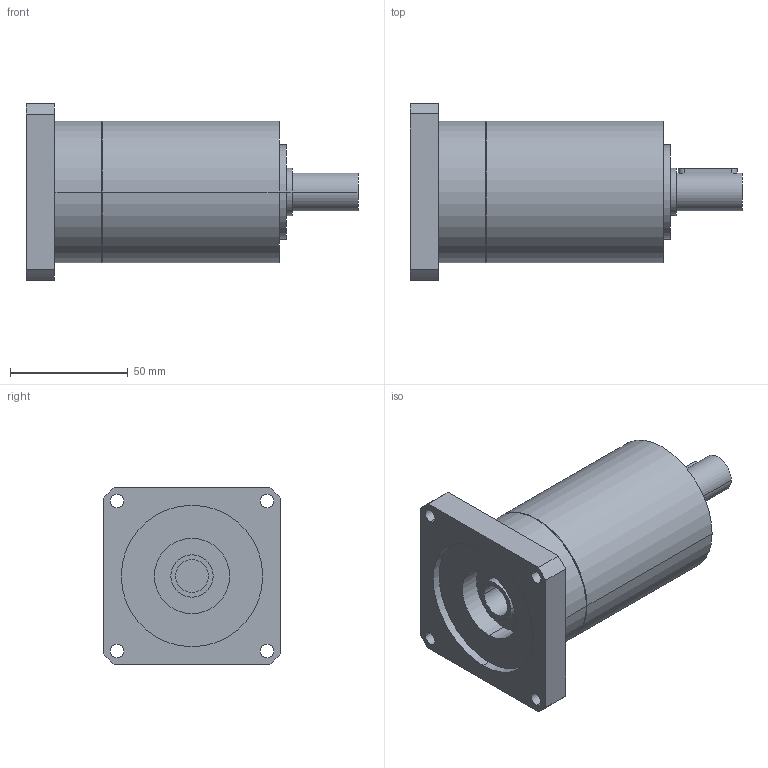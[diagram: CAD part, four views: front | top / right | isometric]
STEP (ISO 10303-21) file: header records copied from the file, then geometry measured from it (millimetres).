
FILE_DESCRIPTION(('CoCreate Modeling STEP Export'),'2;1');
FILE_NAME('GPR75_ig-9-12-16-20-24-30-36_16_B14_14_P15.stp','2014-08-25T16:45:18',(''),(''),'CoCreate Modeling STEP processor for AP214 (Solid Model)','CoCreate Modeling 16.00C 25-Feb-2009 (C) Parametric Technology GmbH','');
FILE_SCHEMA(('AUTOMOTIVE_DESIGN { 1 0 10303 214 1 1 1 1 }'));
Length unit declared in the file: millimetre
Products named in the file (2): GPR75_ig-9-12-16-20-24-30-36_16_B14_14_P15
Assembly tree (1 placements, depth 2):
  GPR75_ig-9-12-16-20-24-30-36_16_B14_14_P15
    GPR75_ig-9-12-16-20-24-30-36_16_B14_14_P15
Bounding box: 140.9 x 75 x 75 mm (x, y, z)
Volume: 324995.1 mm3; surface area: 39349 mm2
Topology: 1 solids, 1 shells, 70 faces, 188 edges, 132 vertices
Faces by surface type: cylinder 42, plane 22, cone 6
Entity records: 1939 total; most frequent: ORIENTED_EDGE 372, CARTESIAN_POINT 360, DIRECTION 262, EDGE_CURVE 186, VERTEX_POINT 132, AXIS2_PLACEMENT_3D 98, EDGE_LOOP 92, FACE_OUTER_BOUND 70
